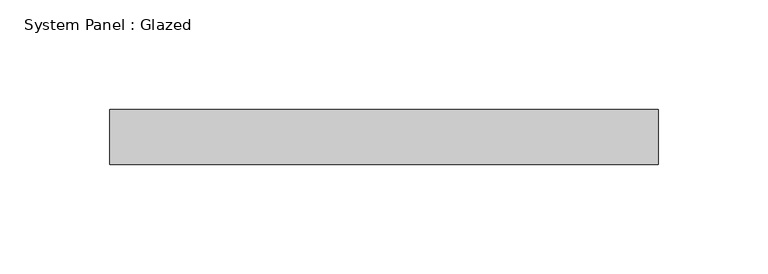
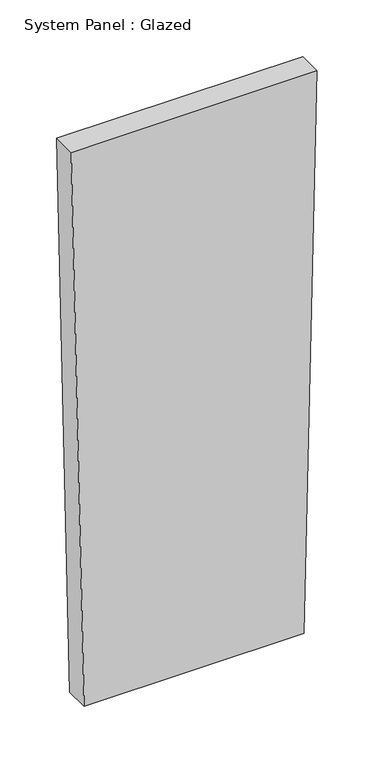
"""IFC4 building model written with IfcOpenShell, lengths in millimetres: plate geometry, System Panel : Glazed."""

from ifc_helpers import new_model, si_unit, frame, origin, place, context, project, spatial, polyline, outline, extrude, source, transform, mapped, element, save


def system_panel_glazed_79b3f248(model_context):
    return source(origin(), model_context, "Body", "SweptSolid", [
        extrude(outline(polyline([(0.0, -111.8577309), (0.0, 111.8577309), (599.8549311, 125.0509732), (599.8549311, -125.0509732), (0.0, -111.8577309)])), frame((0.0, 24.5, 0.0), z_axis=(0.0, 1.0, 0.0), x_axis=(0.0, 0.0, 1.0)), (0.0, 0.0, 1.0), 25.0),
    ])


if __name__ == "__main__":
    model = new_model("IFC4")
    model_context = context("Model", 3, world=origin())
    ifc_project = project(units=[si_unit("LENGTHUNIT", "METRE", prefix="MILLI")], contexts=[model_context])
    site = spatial("IfcSite", under=ifc_project)
    building = spatial("IfcBuilding", under=site)
    placement = place(None, origin())
    system_panel_glazed_shape = system_panel_glazed_79b3f248(model_context)
    element("IfcPlate", 1, ObjectType="System Panel : Glazed", at=placement, inside=building, context=model_context, shape_type="MappedRepresentation", body=[
        mapped(system_panel_glazed_shape, transform((0.0, 0.0, 0.0), x_axis=(1.0, 0.0, 0.0), y_axis=(0.0, 1.0, 0.0), z_axis=(0.0, 0.0, 1.0))),
    ])
    save(model, "model.ifc")
